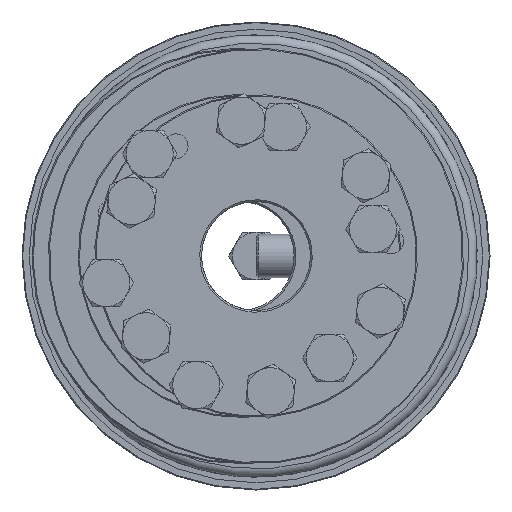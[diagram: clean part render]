
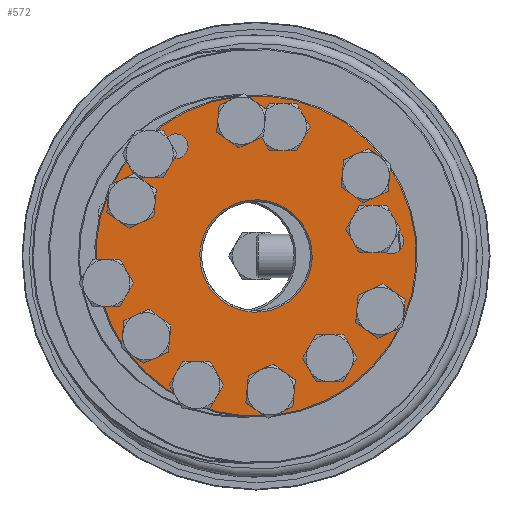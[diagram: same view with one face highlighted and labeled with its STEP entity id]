
A CAD part, left-side view. The second image highlights one B-rep face of the part: STEP entity #572.
In plain terms, the highlighted planar face has unit normal (-1, 0, 0).
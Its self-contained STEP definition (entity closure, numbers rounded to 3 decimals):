
#572 = ADVANCED_FACE( 'NONE', ( #919, #920, #921, #922, #923, #924, #925, #926, #927, #928, #929 ), #930, .F. );
#919 = FACE_OUTER_BOUND( '', #1456, .T. );
#920 = FACE_BOUND( '', #1457, .T. );
#921 = FACE_BOUND( '', #1458, .T. );
#922 = FACE_BOUND( '', #1459, .T. );
#923 = FACE_BOUND( '', #1460, .T. );
#924 = FACE_BOUND( '', #1461, .T. );
#925 = FACE_BOUND( '', #1462, .T. );
#926 = FACE_BOUND( '', #1463, .T. );
#927 = FACE_BOUND( '', #1464, .T. );
#928 = FACE_BOUND( '', #1465, .T. );
#929 = FACE_BOUND( '', #1466, .T. );
#930 = PLANE( '', #1467 );
#1456 = EDGE_LOOP( '', ( #2166 ) );
#1457 = EDGE_LOOP( '', ( #2167 ) );
#1458 = EDGE_LOOP( '', ( #2168 ) );
#1459 = EDGE_LOOP( '', ( #2169 ) );
#1460 = EDGE_LOOP( '', ( #2170 ) );
#1461 = EDGE_LOOP( '', ( #2171 ) );
#1462 = EDGE_LOOP( '', ( #2172 ) );
#1463 = EDGE_LOOP( '', ( #2173 ) );
#1464 = EDGE_LOOP( '', ( #2174 ) );
#1465 = EDGE_LOOP( '', ( #2175 ) );
#1466 = EDGE_LOOP( '', ( #2176 ) );
#1467 = AXIS2_PLACEMENT_3D( '', #2177, #2178, #2179 );
#2166 = ORIENTED_EDGE( '', *, *, #3019, .T. );
#2167 = ORIENTED_EDGE( '', *, *, #3017, .T. );
#2168 = ORIENTED_EDGE( '', *, *, #3032, .F. );
#2169 = ORIENTED_EDGE( '', *, *, #3033, .F. );
#2170 = ORIENTED_EDGE( '', *, *, #3034, .F. );
#2171 = ORIENTED_EDGE( '', *, *, #3022, .F. );
#2172 = ORIENTED_EDGE( '', *, *, #3035, .F. );
#2173 = ORIENTED_EDGE( '', *, *, #3036, .F. );
#2174 = ORIENTED_EDGE( '', *, *, #3011, .F. );
#2175 = ORIENTED_EDGE( '', *, *, #3037, .F. );
#2176 = ORIENTED_EDGE( '', *, *, #3038, .F. );
#2177 = CARTESIAN_POINT( '', ( 0., 15., 0. ) );
#2178 = DIRECTION( '', ( 1., 0., 0. ) );
#2179 = DIRECTION( '', ( 0., 1., 0. ) );
#3011 = EDGE_CURVE( 'NONE', #3353, #3353, #3354, .T. );
#3017 = EDGE_CURVE( 'NONE', #3365, #3365, #3366, .T. );
#3019 = EDGE_CURVE( 'NONE', #3369, #3369, #3370, .T. );
#3022 = EDGE_CURVE( 'NONE', #3375, #3375, #3376, .T. );
#3032 = EDGE_CURVE( 'NONE', #3395, #3395, #3396, .T. );
#3033 = EDGE_CURVE( 'NONE', #3397, #3397, #3398, .T. );
#3034 = EDGE_CURVE( 'NONE', #3399, #3399, #3400, .T. );
#3035 = EDGE_CURVE( 'NONE', #3401, #3401, #3402, .T. );
#3036 = EDGE_CURVE( 'NONE', #3403, #3403, #3404, .T. );
#3037 = EDGE_CURVE( 'NONE', #3405, #3405, #3406, .T. );
#3038 = EDGE_CURVE( 'NONE', #3407, #3407, #3408, .T. );
#3353 = VERTEX_POINT( '', #3857 );
#3354 = CIRCLE( '', #3858, 4.5 );
#3365 = VERTEX_POINT( '', #3869 );
#3366 = CIRCLE( '', #3870, 15.5 );
#3369 = VERTEX_POINT( '', #3873 );
#3370 = CIRCLE( '', #3874, 44.2 );
#3375 = VERTEX_POINT( '', #3879 );
#3376 = CIRCLE( '', #3880, 4.5 );
#3395 = VERTEX_POINT( '', #3899 );
#3396 = CIRCLE( '', #3900, 3.4 );
#3397 = VERTEX_POINT( '', #3901 );
#3398 = CIRCLE( '', #3902, 4.5 );
#3399 = VERTEX_POINT( '', #3903 );
#3400 = CIRCLE( '', #3904, 4.5 );
#3401 = VERTEX_POINT( '', #3905 );
#3402 = CIRCLE( '', #3906, 4.5 );
#3403 = VERTEX_POINT( '', #3907 );
#3404 = CIRCLE( '', #3908, 4.5 );
#3405 = VERTEX_POINT( '', #3909 );
#3406 = CIRCLE( '', #3910, 3.4 );
#3407 = VERTEX_POINT( '', #3911 );
#3408 = CIRCLE( '', #3912, 3.4 );
#3857 = CARTESIAN_POINT( '', ( 0., -18.75, 36.976 ) );
#3858 = AXIS2_PLACEMENT_3D( '', #4837, #4838, #4839 );
#3869 = CARTESIAN_POINT( '', ( 0., 0., -15.5 ) );
#3870 = AXIS2_PLACEMENT_3D( '', #4855, #4856, #4857 );
#3873 = CARTESIAN_POINT( '', ( 0., 0., -44.2 ) );
#3874 = AXIS2_PLACEMENT_3D( '', #4861, #4862, #4863 );
#3879 = CARTESIAN_POINT( '', ( 0., 18.75, -27.976 ) );
#3880 = AXIS2_PLACEMENT_3D( '', #4870, #4871, #4872 );
#3899 = CARTESIAN_POINT( '', ( 0., 0., -34.1 ) );
#3900 = AXIS2_PLACEMENT_3D( '', #4900, #4901, #4902 );
#3901 = CARTESIAN_POINT( '', ( 0., 18.75, 36.976 ) );
#3902 = AXIS2_PLACEMENT_3D( '', #4903, #4904, #4905 );
#3903 = CARTESIAN_POINT( '', ( 0., 37.5, 4.5 ) );
#3904 = AXIS2_PLACEMENT_3D( '', #4906, #4907, #4908 );
#3905 = CARTESIAN_POINT( '', ( 0., -18.75, -27.976 ) );
#3906 = AXIS2_PLACEMENT_3D( '', #4909, #4910, #4911 );
#3907 = CARTESIAN_POINT( '', ( 0., -37.5, 4.5 ) );
#3908 = AXIS2_PLACEMENT_3D( '', #4912, #4913, #4914 );
#3909 = CARTESIAN_POINT( '', ( 0., 32.476, 22.15 ) );
#3910 = AXIS2_PLACEMENT_3D( '', #4915, #4916, #4917 );
#3911 = CARTESIAN_POINT( '', ( 0., -32.476, 22.15 ) );
#3912 = AXIS2_PLACEMENT_3D( '', #4918, #4919, #4920 );
#4837 = CARTESIAN_POINT( '', ( 0., -18.75, 32.476 ) );
#4838 = DIRECTION( '', ( -1., 0., 0. ) );
#4839 = DIRECTION( '', ( 0., 0., 1. ) );
#4855 = CARTESIAN_POINT( '', ( 0., 0., 0. ) );
#4856 = DIRECTION( '', ( 1., 0., 0. ) );
#4857 = DIRECTION( '', ( 0., 0., -1. ) );
#4861 = CARTESIAN_POINT( '', ( 0., 0., 0. ) );
#4862 = DIRECTION( '', ( -1., 0., 0. ) );
#4863 = DIRECTION( '', ( 0., 0., -1. ) );
#4870 = CARTESIAN_POINT( '', ( 0., 18.75, -32.476 ) );
#4871 = DIRECTION( '', ( -1., 0., 0. ) );
#4872 = DIRECTION( '', ( 0., 0., 1. ) );
#4900 = CARTESIAN_POINT( '', ( 0., 0., -37.5 ) );
#4901 = DIRECTION( '', ( -1., 0., 0. ) );
#4902 = DIRECTION( '', ( 0., 0., 1. ) );
#4903 = CARTESIAN_POINT( '', ( 0., 18.75, 32.476 ) );
#4904 = DIRECTION( '', ( -1., 0., 0. ) );
#4905 = DIRECTION( '', ( 0., 0., 1. ) );
#4906 = CARTESIAN_POINT( '', ( 0., 37.5, 0. ) );
#4907 = DIRECTION( '', ( -1., 0., 0. ) );
#4908 = DIRECTION( '', ( 0., 0., 1. ) );
#4909 = CARTESIAN_POINT( '', ( 0., -18.75, -32.476 ) );
#4910 = DIRECTION( '', ( -1., 0., 0. ) );
#4911 = DIRECTION( '', ( 0., 0., 1. ) );
#4912 = CARTESIAN_POINT( '', ( 0., -37.5, 0. ) );
#4913 = DIRECTION( '', ( -1., 0., 0. ) );
#4914 = DIRECTION( '', ( 0., 0., 1. ) );
#4915 = CARTESIAN_POINT( '', ( 0., 32.476, 18.75 ) );
#4916 = DIRECTION( '', ( -1., 0., 0. ) );
#4917 = DIRECTION( '', ( 0., 0., 1. ) );
#4918 = CARTESIAN_POINT( '', ( 0., -32.476, 18.75 ) );
#4919 = DIRECTION( '', ( -1., 0., 0. ) );
#4920 = DIRECTION( '', ( 0., 0., 1. ) );
